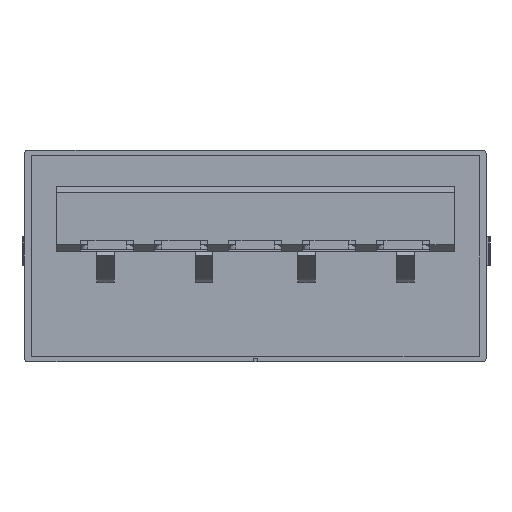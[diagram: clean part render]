
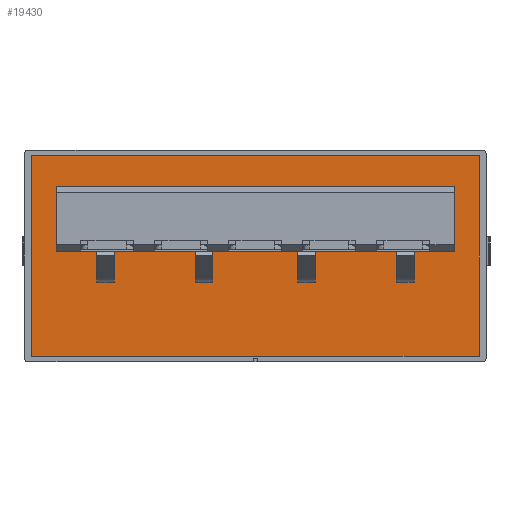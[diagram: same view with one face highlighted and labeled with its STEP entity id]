
A CAD part, front view. The second image highlights one B-rep face of the part: STEP entity #19430.
In plain terms, the highlighted planar face has unit normal (0, -1, 0) as drawn and (0, 1, 0) by its records, which use the part's own axes.
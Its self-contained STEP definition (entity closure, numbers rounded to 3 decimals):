
#9444 = VERTEX_POINT('',#9445);
#9445 = CARTESIAN_POINT('',(0.,3.55,-4.1));
#9451 = EDGE_CURVE('',#9444,#9452,#9454,.T.);
#9452 = VERTEX_POINT('',#9453);
#9453 = CARTESIAN_POINT('',(12.7,3.55,-4.1));
#9454 = LINE('',#9455,#9456);
#9455 = CARTESIAN_POINT('',(12.7,3.55,-4.1));
#9456 = VECTOR('',#9457,1.);
#9457 = DIRECTION('',(1.,0.,0.));
#10022 = EDGE_CURVE('',#10023,#10025,#10027,.T.);
#10023 = VERTEX_POINT('',#10024);
#10024 = CARTESIAN_POINT('',(12.7,3.55,1.58));
#10025 = VERTEX_POINT('',#10026);
#10026 = CARTESIAN_POINT('',(0.,3.55,1.58));
#10027 = LINE('',#10028,#10029);
#10028 = CARTESIAN_POINT('',(12.7,3.55,1.58));
#10029 = VECTOR('',#10030,1.);
#10030 = DIRECTION('',(-1.,0.,0.));
#10157 = EDGE_CURVE('',#9452,#10023,#10158,.T.);
#10158 = LINE('',#10159,#10160);
#10159 = CARTESIAN_POINT('',(12.7,3.55,-4.1));
#10160 = VECTOR('',#10161,1.);
#10161 = DIRECTION('',(0.,0.,1.));
#10278 = EDGE_CURVE('',#10025,#9444,#10279,.T.);
#10279 = LINE('',#10280,#10281);
#10280 = CARTESIAN_POINT('',(0.,3.55,-4.1));
#10281 = VECTOR('',#10282,1.);
#10282 = DIRECTION('',(0.,0.,-1.));
#18509 = VERTEX_POINT('',#18510);
#18510 = CARTESIAN_POINT('',(0.7,3.55,-1.4));
#18516 = EDGE_CURVE('',#18509,#18517,#18519,.T.);
#18517 = VERTEX_POINT('',#18518);
#18518 = CARTESIAN_POINT('',(12.,3.55,-1.4));
#18519 = LINE('',#18520,#18521);
#18520 = CARTESIAN_POINT('',(0.,3.55,-1.4));
#18521 = VECTOR('',#18522,1.);
#18522 = DIRECTION('',(1.,0.,0.));
#18711 = VERTEX_POINT('',#18712);
#18712 = CARTESIAN_POINT('',(12.,3.55,-3.24));
#18718 = EDGE_CURVE('',#18719,#18711,#18721,.T.);
#18719 = VERTEX_POINT('',#18720);
#18720 = CARTESIAN_POINT('',(0.7,3.55,-3.24));
#18721 = LINE('',#18722,#18723);
#18722 = CARTESIAN_POINT('',(0.,3.55,-3.24));
#18723 = VECTOR('',#18724,1.);
#18724 = DIRECTION('',(1.,0.,0.));
#18742 = EDGE_CURVE('',#18719,#18509,#18743,.T.);
#18743 = LINE('',#18744,#18745);
#18744 = CARTESIAN_POINT('',(0.7,3.55,40.721));
#18745 = VECTOR('',#18746,1.);
#18746 = DIRECTION('',(0.,0.,1.));
#18763 = EDGE_CURVE('',#18517,#18711,#18764,.T.);
#18764 = LINE('',#18765,#18766);
#18765 = CARTESIAN_POINT('',(12.,3.55,40.721));
#18766 = VECTOR('',#18767,1.);
#18767 = DIRECTION('',(0.,0.,-1.));
#19430 = ADVANCED_FACE('',(#19431,#19437),#19443,.F.);
#19431 = FACE_BOUND('',#19432,.T.);
#19432 = EDGE_LOOP('',(#19433,#19434,#19435,#19436));
#19433 = ORIENTED_EDGE('',*,*,#18763,.F.);
#19434 = ORIENTED_EDGE('',*,*,#18516,.F.);
#19435 = ORIENTED_EDGE('',*,*,#18742,.F.);
#19436 = ORIENTED_EDGE('',*,*,#18718,.T.);
#19437 = FACE_BOUND('',#19438,.T.);
#19438 = EDGE_LOOP('',(#19439,#19440,#19441,#19442));
#19439 = ORIENTED_EDGE('',*,*,#10157,.F.);
#19440 = ORIENTED_EDGE('',*,*,#9451,.F.);
#19441 = ORIENTED_EDGE('',*,*,#10278,.F.);
#19442 = ORIENTED_EDGE('',*,*,#10022,.F.);
#19443 = PLANE('',#19444);
#19444 = AXIS2_PLACEMENT_3D('',#19445,#19446,#19447);
#19445 = CARTESIAN_POINT('',(62.565,3.55,
    -1.25));
#19446 = DIRECTION('',(0.,-1.,0.));
#19447 = DIRECTION('',(0.,0.,-1.));
